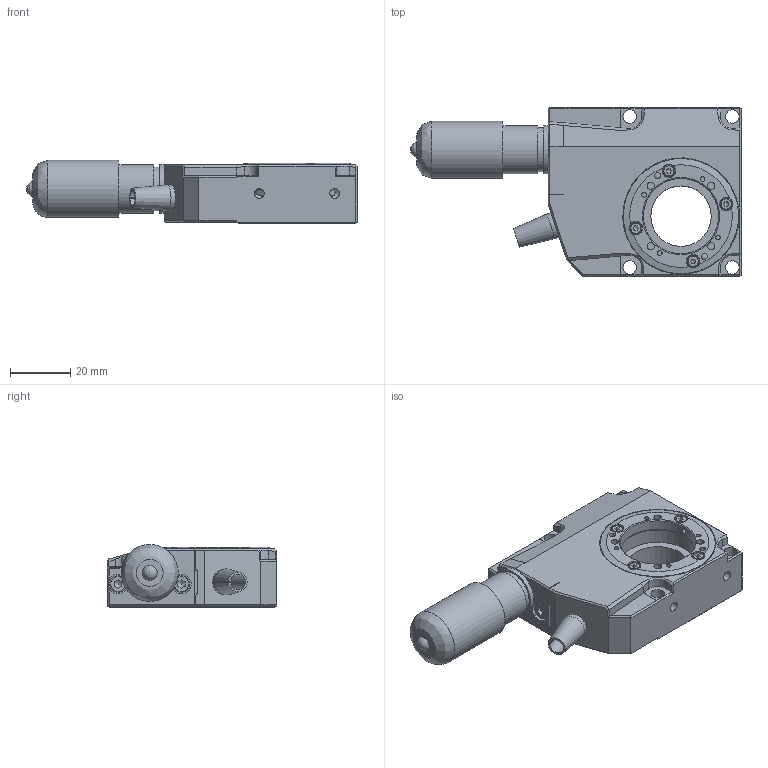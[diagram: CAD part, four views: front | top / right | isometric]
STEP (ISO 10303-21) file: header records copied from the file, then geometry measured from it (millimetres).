
FILE_DESCRIPTION((''),'2;1');
FILE_NAME('I:\Konstruktion\_Internet\Internet_step_sat_iges\Motion Control\3.045 RS-40\321691001.stp','2010-03-10T16:22:25',('sglockner'),(''),'Autodesk Inventor 2008','Autodesk Inventor 2008','');
FILE_SCHEMA(('AUTOMOTIVE_DESIGN { 1 0 10303 214 1 1 1 1 }'));
Length unit declared in the file: millimetre
Products named in the file (1): 321691001
Bounding box: 109.6 x 56 x 20.95 mm (x, y, z)
Volume: 56641 mm3; surface area: 34980 mm2
Topology: 1 solids, 52 shells, 1127 faces, 2739 edges, 1788 vertices
Faces by surface type: plane 635, cylinder 295, cone 145, torus 37, bspline 11, sphere 4
Full cylindrical faces by diameter (mm): 1 x2, 1.567 x24, 1.6 x4, 1.783 x12, 1.8 x2, 1.948 x3, 2 x19, 2.013 x15, 2.4 x16, 2.459 x9, 2.5 x1, 2.8 x5, 2.9 x4, 3 x20, 3.242 x2, 3.4 x4, 3.8 x4, 4 x2, 4.2 x1, 4.4 x4, 4.5 x6, 4.7 x3, 5 x2, 5.5 x4, 5.63 x2, 6 x2, 6.5 x5, 7 x2, 7.8 x1, 7.87 x2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
Entity records: 31277 total; most frequent: CARTESIAN_POINT 7355, DIRECTION 5007, ORIENTED_EDGE 4300, EDGE_CURVE 2150, AXIS2_PLACEMENT_3D 1970, EDGE_LOOP 1709, VERTEX_POINT 1579, FACE_OUTER_BOUND 1127
